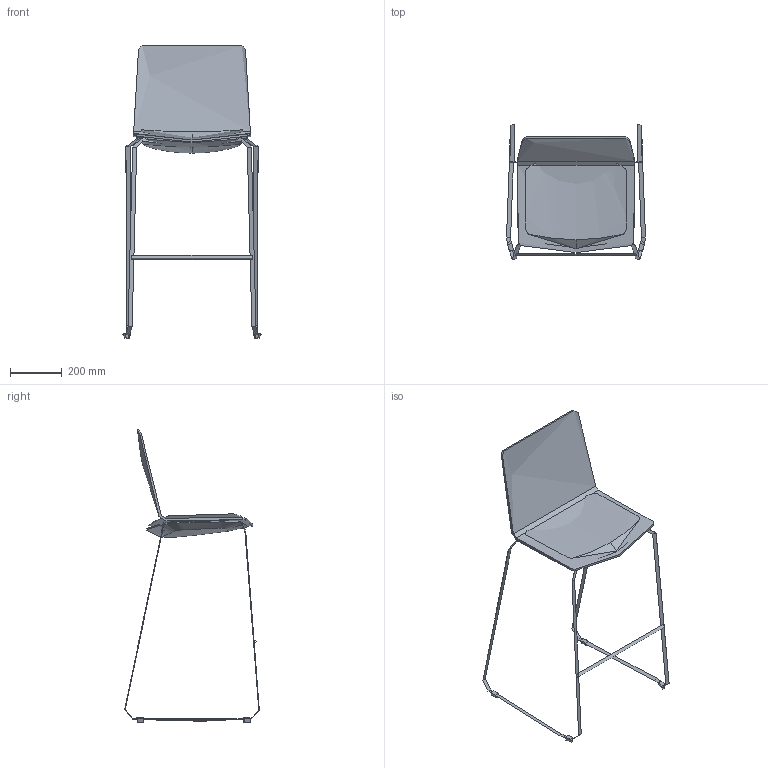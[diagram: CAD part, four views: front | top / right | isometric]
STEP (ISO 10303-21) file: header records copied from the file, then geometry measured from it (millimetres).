
FILE_DESCRIPTION(/* description */ (''),/* implementation_level */ '2;1');
FILE_NAME(/* name */ 'SKYFRE~4',/* time_stamp */ '2017-09-29T20:38:57+02:00',/* author */ (''),/* organization */ (''),/* preprocessor_version */ 'ST-DEVELOPER v15',/* originating_system */ '',/* authorisation */ '');
FILE_SCHEMA (('CONFIG_CONTROL_DESIGN'));
Length unit declared in the file: millimetre
Products named in the file (1): Document
Bounding box: 534.52 x 518.36 x 1124.58 mm (x, y, z)
Volume: 4222512.7 mm3; surface area: 1361495.1 mm2
Topology: 11 solids, 18 shells, 142 faces, 325 edges, 204 vertices
Faces by surface type: bspline 120, plane 22
Entity records: 11076 total; most frequent: CARTESIAN_POINT 9202, ORIENTED_EDGE 606, EDGE_CURVE 322, VERTEX_POINT 204, ADVANCED_FACE 142, FACE_OUTER_BOUND 142, EDGE_LOOP 142, B_SPLINE_CURVE_WITH_KNOTS 78
